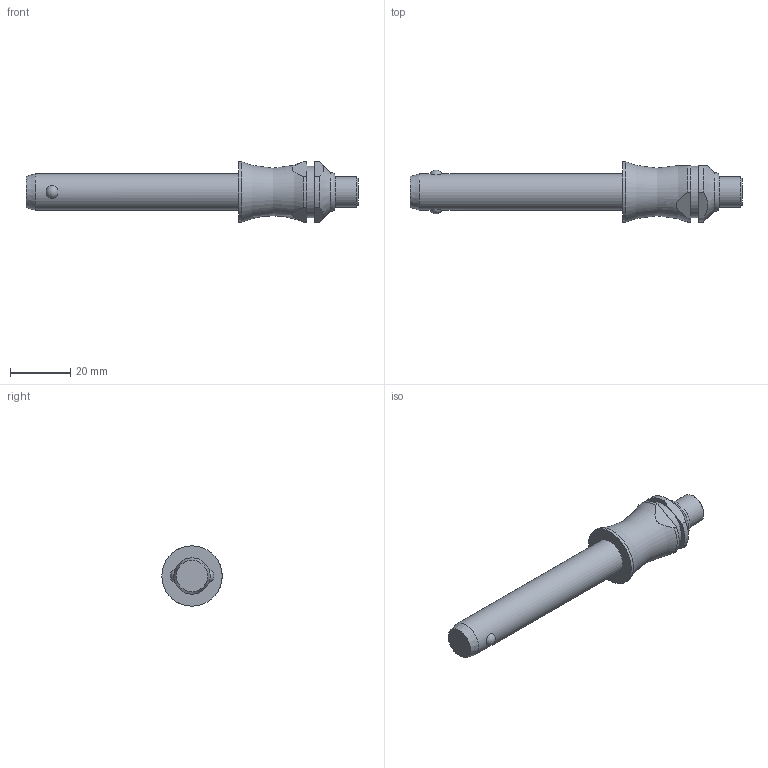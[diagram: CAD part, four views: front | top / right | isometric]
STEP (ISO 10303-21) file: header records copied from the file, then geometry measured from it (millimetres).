
FILE_DESCRIPTION( ( 'STEP AP203' ), '1' );
FILE_NAME( 'C:/Temp/Ganter_Step_05_03_2020/data/3_1/gn113_3/Stainless Steel-Ball lock pin GN 113.3-12-60 (deactivated).stp', '2020-03-12T08:18:45', ( 'License CC BY-ND 4.0' ), ( 'CADENAS' ), ' ', 'PARTsolutions', ' ' );
FILE_SCHEMA( ( 'CONFIG_CONTROL_DESIGN' ) );
Length unit declared in the file: millimetre
Products named in the file (1): _Stainless Steel-Ball lock pin GN 113.3-12-60 (deactivated)
Bounding box: 110.1 x 20 x 20 mm (x, y, z)
Volume: 15923.4 mm3; surface area: 5223.8 mm2
Topology: 1 solids, 1 shells, 28 faces, 60 edges, 39 vertices
Faces by surface type: plane 11, cylinder 10, cone 3, torus 2, sphere 2
Full cylindrical faces by diameter (mm): 10 x1, 12 x1, 17 x1, 20 x1
Entity records: 954 total; most frequent: CARTESIAN_POINT 338, DIRECTION 122, ORIENTED_EDGE 98, AXIS2_PLACEMENT_3D 52, EDGE_CURVE 49, EDGE_LOOP 42, VERTEX_POINT 38, FACE_OUTER_BOUND 34
